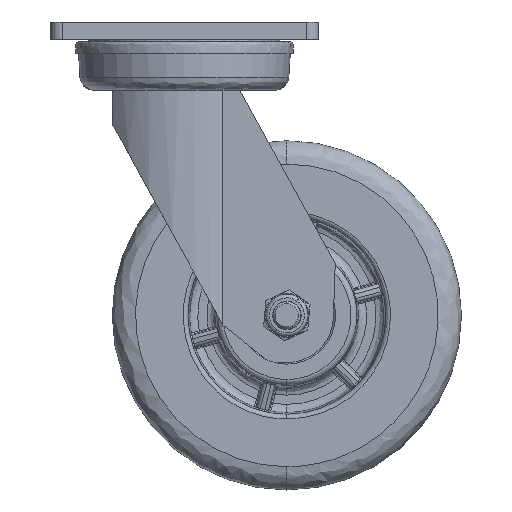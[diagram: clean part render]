
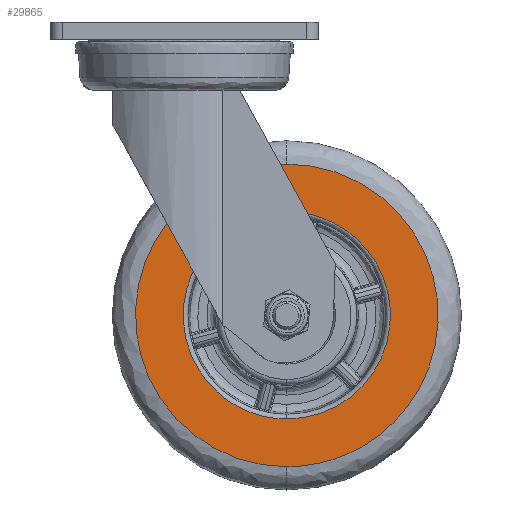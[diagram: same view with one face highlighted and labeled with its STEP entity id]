
A CAD part, front view. The second image highlights one B-rep face of the part: STEP entity #29865.
In plain terms, the highlighted planar face has unit normal (0, -1, 0).
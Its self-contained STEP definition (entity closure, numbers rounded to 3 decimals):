
#651 = FACE_BOUND ( 'NONE', #42430, .T. ) ;
#899 = CARTESIAN_POINT ( 'NONE',  ( 44., -25.5, -191. ) ) ;
#1654 = VERTEX_POINT ( 'NONE', #899 ) ;
#1965 = VERTEX_POINT ( 'NONE', #7024 ) ;
#3477 =( BOUNDED_CURVE ( )  B_SPLINE_CURVE ( 3, ( #15824, #32333, #12034, #32061 ),
 .UNSPECIFIED., .F., .F. ) 
 B_SPLINE_CURVE_WITH_KNOTS ( ( 4, 4 ),
 ( 0.5, 1. ),
 .UNSPECIFIED. ) 
 CURVE ( )  GEOMETRIC_REPRESENTATION_ITEM ( )  RATIONAL_B_SPLINE_CURVE ( ( 1., 0.333, 0.333, 1. ) ) 
 REPRESENTATION_ITEM ( '' )  );
#4872 = ORIENTED_EDGE ( 'NONE', *, *, #25489, .F. ) ;
#6415 = CARTESIAN_POINT ( 'NONE',  ( 174., -25.5, -61. ) ) ;
#7024 = CARTESIAN_POINT ( 'NONE',  ( 44., -25.5, -81.503 ) ) ;
#8311 = VERTEX_POINT ( 'NONE', #50655 ) ;
#8475 =( BOUNDED_CURVE ( )  B_SPLINE_CURVE ( 3, ( #49713, #28619, #53243, #21034 ),
 .UNSPECIFIED., .F., .F. ) 
 B_SPLINE_CURVE_WITH_KNOTS ( ( 4, 4 ),
 ( 0., 0.5 ),
 .UNSPECIFIED. ) 
 CURVE ( )  GEOMETRIC_REPRESENTATION_ITEM ( )  RATIONAL_B_SPLINE_CURVE ( ( 1., 0.333, 0.333, 1. ) ) 
 REPRESENTATION_ITEM ( '' )  );
#8501 = ORIENTED_EDGE ( 'NONE', *, *, #17195, .F. ) ;
#9022 = DIRECTION ( 'NONE',  ( 0., 0., 1. ) ) ;
#12034 = CARTESIAN_POINT ( 'NONE',  ( -86., -25.5, -61. ) ) ;
#15824 = CARTESIAN_POINT ( 'NONE',  ( 44., -25.5, -191. ) ) ;
#17195 = EDGE_CURVE ( 'NONE', #8311, #1654, #18341, .T. ) ;
#18341 =( BOUNDED_CURVE ( )  B_SPLINE_CURVE ( 3, ( #52415, #6415, #43765, #39710 ),
 .UNSPECIFIED., .F., .F. ) 
 B_SPLINE_CURVE_WITH_KNOTS ( ( 4, 4 ),
 ( 0., 0.5 ),
 .UNSPECIFIED. ) 
 CURVE ( )  GEOMETRIC_REPRESENTATION_ITEM ( )  RATIONAL_B_SPLINE_CURVE ( ( 1., 0.333, 0.333, 1. ) ) 
 REPRESENTATION_ITEM ( '' )  );
#19023 = CARTESIAN_POINT ( 'NONE',  ( -44.994, -25.5, -81.503 ) ) ;
#19036 = EDGE_CURVE ( 'NONE', #1654, #8311, #3477, .T. ) ;
#19192 = EDGE_CURVE ( 'NONE', #1965, #45197, #19790, .T. ) ;
#19790 =( BOUNDED_CURVE ( )  B_SPLINE_CURVE ( 3, ( #43631, #19023, #22537, #42823 ),
 .UNSPECIFIED., .F., .F. ) 
 B_SPLINE_CURVE_WITH_KNOTS ( ( 4, 4 ),
 ( 0.5, 1. ),
 .UNSPECIFIED. ) 
 CURVE ( )  GEOMETRIC_REPRESENTATION_ITEM ( )  RATIONAL_B_SPLINE_CURVE ( ( 1., 0.333, 0.333, 1. ) ) 
 REPRESENTATION_ITEM ( '' )  );
#21034 = CARTESIAN_POINT ( 'NONE',  ( 44., -25.5, -81.503 ) ) ;
#22537 = CARTESIAN_POINT ( 'NONE',  ( -44.994, -25.5, -170.497 ) ) ;
#25489 = EDGE_CURVE ( 'NONE', #45197, #1965, #8475, .T. ) ;
#26110 = CARTESIAN_POINT ( 'NONE',  ( 44., -25.5, -170.497 ) ) ;
#28619 = CARTESIAN_POINT ( 'NONE',  ( 132.994, -25.5, -170.497 ) ) ;
#29030 = ORIENTED_EDGE ( 'NONE', *, *, #19036, .F. ) ;
#29865 = ADVANCED_FACE ( 'NONE', ( #49357, #651 ), #33392, .F. ) ;
#30678 = AXIS2_PLACEMENT_3D ( 'NONE', #32860, #49100, #9022 ) ;
#32061 = CARTESIAN_POINT ( 'NONE',  ( 44., -25.5, -61. ) ) ;
#32333 = CARTESIAN_POINT ( 'NONE',  ( -86., -25.5, -191. ) ) ;
#32860 = CARTESIAN_POINT ( 'NONE',  ( 44., -25.5, -126. ) ) ;
#33392 = PLANE ( 'NONE',  #30678 ) ;
#39265 = ORIENTED_EDGE ( 'NONE', *, *, #19192, .F. ) ;
#39710 = CARTESIAN_POINT ( 'NONE',  ( 44., -25.5, -191. ) ) ;
#42430 = EDGE_LOOP ( 'NONE', ( #4872, #39265 ) ) ;
#42823 = CARTESIAN_POINT ( 'NONE',  ( 44., -25.5, -170.497 ) ) ;
#43631 = CARTESIAN_POINT ( 'NONE',  ( 44., -25.5, -81.503 ) ) ;
#43765 = CARTESIAN_POINT ( 'NONE',  ( 174., -25.5, -191. ) ) ;
#45197 = VERTEX_POINT ( 'NONE', #26110 ) ;
#49100 = DIRECTION ( 'NONE',  ( 0., 1., 0. ) ) ;
#49321 = EDGE_LOOP ( 'NONE', ( #29030, #8501 ) ) ;
#49357 = FACE_OUTER_BOUND ( 'NONE', #49321, .T. ) ;
#49713 = CARTESIAN_POINT ( 'NONE',  ( 44., -25.5, -170.497 ) ) ;
#50655 = CARTESIAN_POINT ( 'NONE',  ( 44., -25.5, -61. ) ) ;
#52415 = CARTESIAN_POINT ( 'NONE',  ( 44., -25.5, -61. ) ) ;
#53243 = CARTESIAN_POINT ( 'NONE',  ( 132.994, -25.5, -81.503 ) ) ;
